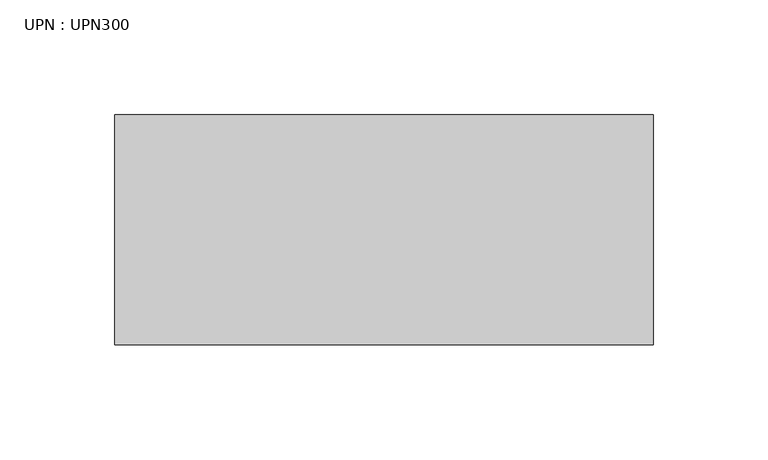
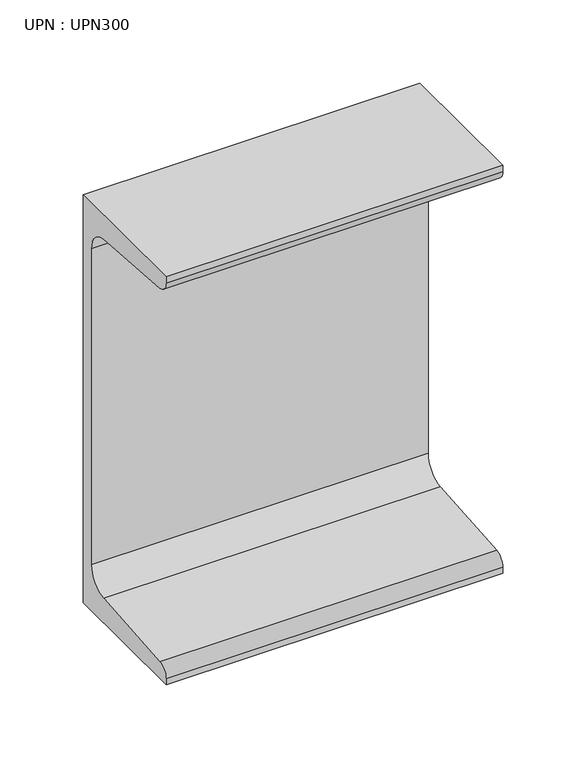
"""IFC4 building model written with IfcOpenShell, lengths in millimetres: beam geometry, UPN : UPN300."""

from ifc_helpers import new_model, si_unit, point, frame, frame_2d, origin, place, context, project, spatial, polyline, circle_curve, trimmed, segment, composite_curve, outline, extrude, source, transform, mapped, element, save


def upn_upn300_cf89777c(model_context):
    return source(origin(), model_context, "Body", "SweptSolid", [
        extrude(outline(composite_curve([segment(polyline([(27.0, 150.0), (27.0, -150.0), (-73.0, -150.0), (-73.0, -145.3826224)]), True, "CONTINUOUS"), segment(trimmed(circle_curve(frame_2d((-65.0, -145.3826224)), 8.0), [point((-73.0, -145.3826224))], [point((-65.637416, -137.4080566))], False, "CARTESIAN"), True, "CONTINUOUS"), segment(polyline([(-65.637416, -137.4080566), (2.274832, -131.9797543)]), True, "CONTINUOUS"), segment(trimmed(circle_curve(frame_2d((1.0, -116.0306225)), 16.0), [point((2.274832, -131.9797543))], [point((17.0, -116.0306225))], True, "CARTESIAN"), True, "CONTINUOUS"), segment(polyline([(17.0, -116.0306225), (17.0, 116.0306225)]), True, "CONTINUOUS"), segment(trimmed(circle_curve(frame_2d((1.0, 116.0306225)), 16.0), [point((17.0, 116.0306225))], [point((2.274832, 131.9797543))], True, "CARTESIAN"), True, "CONTINUOUS"), segment(polyline([(2.274832, 131.9797543), (-65.637416, 137.4080566)]), True, "CONTINUOUS"), segment(trimmed(circle_curve(frame_2d((-65.0, 145.3826224)), 8.0), [point((-65.637416, 137.4080566))], [point((-73.0, 145.3826224))], False, "CARTESIAN"), True, "CONTINUOUS"), segment(polyline([(-73.0, 145.3826224), (-73.0, 150.0), (27.0, 150.0)]), True, "CONTINUOUS")], self_intersect=False)), frame((-110.0, 0.0, 0.0), z_axis=(1.0, 0.0, 0.0), x_axis=(0.0, 1.0, 0.0)), (0.0, 0.0, 1.0), 234.2),
    ])


if __name__ == "__main__":
    model = new_model("IFC4")
    model_context = context("Model", 3, world=origin())
    ifc_project = project(units=[si_unit("LENGTHUNIT", "METRE", prefix="MILLI")], contexts=[model_context])
    site = spatial("IfcSite", under=ifc_project)
    building = spatial("IfcBuilding", under=site)
    placement = place(None, origin())
    upn_upn300_shape = upn_upn300_cf89777c(model_context)
    element("IfcBeam", 1, ObjectType="UPN : UPN300", at=placement, inside=building, context=model_context, shape_type="MappedRepresentation", body=[
        mapped(upn_upn300_shape, transform((0.0, 0.0, 0.0), x_axis=(1.0, 0.0, 0.0), y_axis=(0.0, 1.0, 0.0), z_axis=(0.0, 0.0, 1.0))),
    ])
    save(model, "model.ifc")
